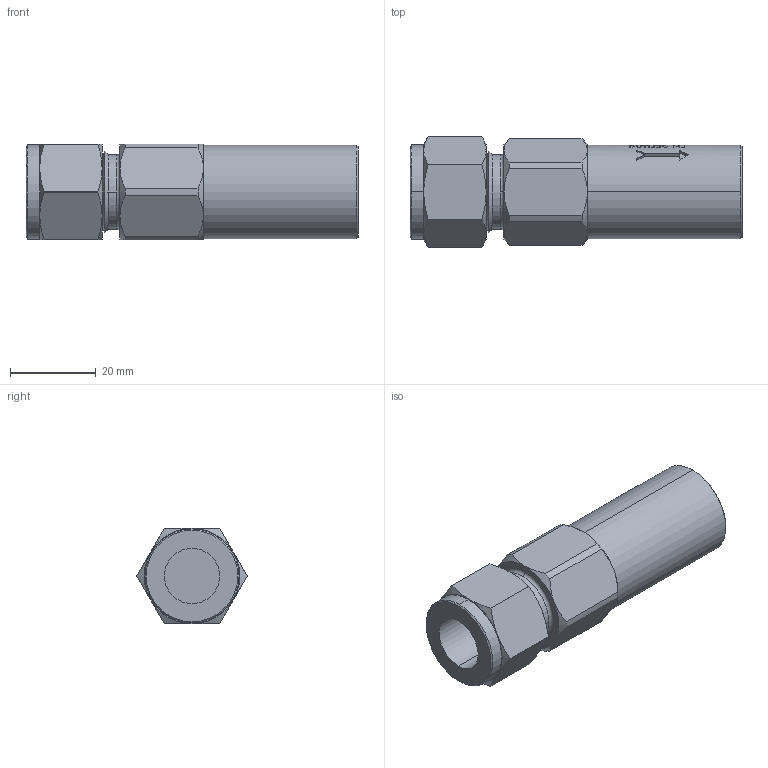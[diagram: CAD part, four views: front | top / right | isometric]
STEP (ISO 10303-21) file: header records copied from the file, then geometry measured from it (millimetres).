
FILE_DESCRIPTION (( 'STEP AP203' ), '1' );
FILE_NAME ('IRV-8T.STEP', '2020-08-13T14:31:53', ( '' ), ( '' ), 'SwSTEP 2.0', 'SolidWorks 2020', '' );
FILE_SCHEMA (( 'CONFIG_CONTROL_DESIGN' ));
Length unit declared in the file: inch
Products named in the file (2): IRV-8T; Part2^IRV-8T
Assembly tree (1 placements, depth 2):
  IRV-8T
    Part2^IRV-8T
Bounding box: 77.22 x 25.65 x 22.23 mm (x, y, z)
Volume: 25305.4 mm3; surface area: 7889.5 mm2
Topology: 1 solids, 1 shells, 306 faces, 788 edges, 511 vertices
Faces by surface type: plane 149, bspline 70, cylinder 49, cone 36, torus 2
Entity records: 14189 total; most frequent: CARTESIAN_POINT 7130, ORIENTED_EDGE 1572, DIRECTION 1190, EDGE_CURVE 786, VERTEX_POINT 511, AXIS2_PLACEMENT_3D 450, EDGE_LOOP 335, FACE_OUTER_BOUND 306
